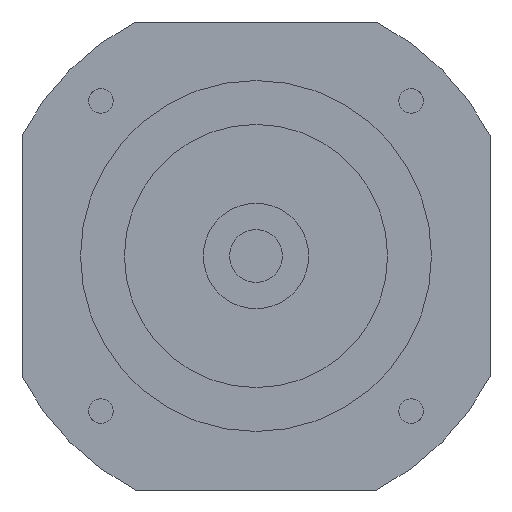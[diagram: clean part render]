
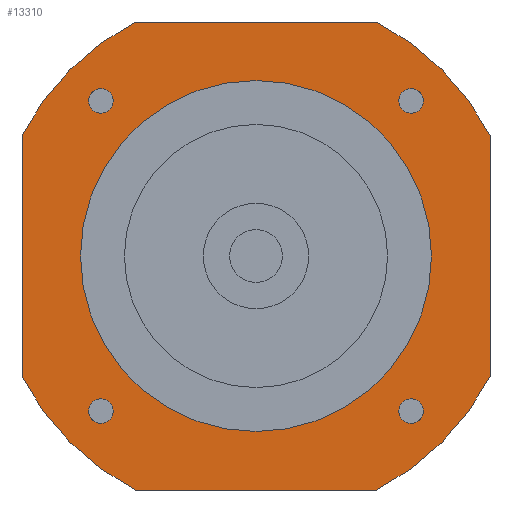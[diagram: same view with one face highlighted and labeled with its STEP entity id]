
A CAD part, left-side view. The second image highlights one B-rep face of the part: STEP entity #13310.
In plain terms, the highlighted planar face has unit normal (-1, 0, 0) as drawn and (0, 0, -1) by its records, which use the part's own axes.
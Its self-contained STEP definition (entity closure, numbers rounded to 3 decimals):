
#8680=CARTESIAN_POINT('',(-20.616,40.,-42.2));
#8690=VERTEX_POINT('',#8680);
#8870=CARTESIAN_POINT('',(-40.,20.616,-42.2));
#8880=VERTEX_POINT('',#8870);
#8910=CARTESIAN_POINT('',(0.,0.,
-42.2));
#8920=DIRECTION('',(0.,0.,1.));
#8930=DIRECTION('',(-1.,0.,0.));
#8940=AXIS2_PLACEMENT_3D('',#8910,#8920,#8930);
#8950=CIRCLE('',#8940,45.);
#8960=EDGE_CURVE('',#8690,#8880,#8950,.T.);
#9100=CARTESIAN_POINT('',(-40.,-20.616,-42.2));
#9110=VERTEX_POINT('',#9100);
#9290=CARTESIAN_POINT('',(-20.616,-40.,-42.2));
#9300=VERTEX_POINT('',#9290);
#9330=CARTESIAN_POINT('',(0.,0.,
-42.2));
#9340=DIRECTION('',(0.,0.,1.));
#9350=DIRECTION('',(-1.,0.,0.));
#9360=AXIS2_PLACEMENT_3D('',#9330,#9340,#9350);
#9370=CIRCLE('',#9360,45.);
#9380=EDGE_CURVE('',#9110,#9300,#9370,.T.);
#11850=CARTESIAN_POINT('',(40.,40.,-42.2));
#11860=DIRECTION('',(0.,0.,1.));
#11870=DIRECTION('',(-1.,0.,0.));
#11880=AXIS2_PLACEMENT_3D('',#11850,#11860,#11870);
#11890=PLANE('',#11880);
#11900=CARTESIAN_POINT('',(-26.517,26.517,-42.2));
#11910=DIRECTION('',(0.,0.,-1.));
#11920=DIRECTION('',(0.,-1.,0.));
#11930=AXIS2_PLACEMENT_3D('',#11900,#11910,#11920);
#11940=CIRCLE('',#11930,2.1);
#11950=CARTESIAN_POINT('',(-26.517,24.417,-42.2));
#11960=VERTEX_POINT('',#11950);
#11970=CARTESIAN_POINT('',(-28.617,26.517,-42.2));
#11980=VERTEX_POINT('',#11970);
#11990=EDGE_CURVE('',#11960,#11980,#11940,.T.);
#12000=ORIENTED_EDGE('',*,*,#11990,.F.);
#12010=CARTESIAN_POINT('',(-24.417,26.517,-42.2));
#12020=VERTEX_POINT('',#12010);
#12030=EDGE_CURVE('',#11980,#12020,#11940,.T.);
#12040=ORIENTED_EDGE('',*,*,#12030,.F.);
#12050=EDGE_CURVE('',#12020,#11960,#11940,.T.);
#12060=ORIENTED_EDGE('',*,*,#12050,.F.);
#12070=EDGE_LOOP('',(#12060,#12040,#12000));
#12080=FACE_BOUND('',#12070,.T.);
#12090=CARTESIAN_POINT('',(26.517,26.517,-42.2));
#12100=DIRECTION('',(0.,0.,-1.));
#12110=DIRECTION('',(0.,-1.,0.));
#12120=AXIS2_PLACEMENT_3D('',#12090,#12100,#12110);
#12130=CIRCLE('',#12120,2.1);
#12140=CARTESIAN_POINT('',(26.517,24.417,-42.2));
#12150=VERTEX_POINT('',#12140);
#12160=CARTESIAN_POINT('',(24.417,26.517,-42.2));
#12170=VERTEX_POINT('',#12160);
#12180=EDGE_CURVE('',#12150,#12170,#12130,.T.);
#12190=ORIENTED_EDGE('',*,*,#12180,.F.);
#12200=CARTESIAN_POINT('',(28.617,26.517,-42.2));
#12210=VERTEX_POINT('',#12200);
#12220=EDGE_CURVE('',#12170,#12210,#12130,.T.);
#12230=ORIENTED_EDGE('',*,*,#12220,.F.);
#12240=EDGE_CURVE('',#12210,#12150,#12130,.T.);
#12250=ORIENTED_EDGE('',*,*,#12240,.F.);
#12260=EDGE_LOOP('',(#12250,#12230,#12190));
#12270=FACE_BOUND('',#12260,.T.);
#12280=CARTESIAN_POINT('',(26.517,-26.517,-42.2));
#12290=DIRECTION('',(0.,0.,-1.));
#12300=DIRECTION('',(0.,-1.,0.));
#12310=AXIS2_PLACEMENT_3D('',#12280,#12290,#12300);
#12320=CIRCLE('',#12310,2.1);
#12330=CARTESIAN_POINT('',(26.517,-28.617,-42.2));
#12340=VERTEX_POINT('',#12330);
#12350=CARTESIAN_POINT('',(24.417,-26.517,-42.2));
#12360=VERTEX_POINT('',#12350);
#12370=EDGE_CURVE('',#12340,#12360,#12320,.T.);
#12380=ORIENTED_EDGE('',*,*,#12370,.F.);
#12390=CARTESIAN_POINT('',(28.617,-26.517,-42.2));
#12400=VERTEX_POINT('',#12390);
#12410=EDGE_CURVE('',#12360,#12400,#12320,.T.);
#12420=ORIENTED_EDGE('',*,*,#12410,.F.);
#12430=EDGE_CURVE('',#12400,#12340,#12320,.T.);
#12440=ORIENTED_EDGE('',*,*,#12430,.F.);
#12450=EDGE_LOOP('',(#12440,#12420,#12380));
#12460=FACE_BOUND('',#12450,.T.);
#12470=CARTESIAN_POINT('',(0.,0.,
-42.2));
#12480=DIRECTION('',(0.,0.,1.));
#12490=DIRECTION('',(1.,0.,0.));
#12500=AXIS2_PLACEMENT_3D('',#12470,#12480,#12490);
#12510=CIRCLE('',#12500,30.);
#12520=CARTESIAN_POINT('',(30.,0.,-42.2));
#12530=VERTEX_POINT('',#12520);
#12540=CARTESIAN_POINT('',(-30.,0.,-42.2));
#12550=VERTEX_POINT('',#12540);
#12560=EDGE_CURVE('',#12530,#12550,#12510,.T.);
#12570=ORIENTED_EDGE('',*,*,#12560,.T.);
#12580=EDGE_CURVE('',#12550,#12530,#12510,.T.);
#12590=ORIENTED_EDGE('',*,*,#12580,.T.);
#12600=EDGE_LOOP('',(#12590,#12570));
#12610=FACE_BOUND('',#12600,.T.);
#12620=CARTESIAN_POINT('',(-26.517,-26.517,-42.2));
#12630=DIRECTION('',(0.,0.,-1.));
#12640=DIRECTION('',(0.,-1.,0.));
#12650=AXIS2_PLACEMENT_3D('',#12620,#12630,#12640);
#12660=CIRCLE('',#12650,2.1);
#12670=CARTESIAN_POINT('',(-26.517,-28.617,-42.2));
#12680=VERTEX_POINT('',#12670);
#12690=CARTESIAN_POINT('',(-28.617,-26.517,-42.2));
#12700=VERTEX_POINT('',#12690);
#12710=EDGE_CURVE('',#12680,#12700,#12660,.T.);
#12720=ORIENTED_EDGE('',*,*,#12710,.F.);
#12730=CARTESIAN_POINT('',(-24.417,-26.517,-42.2));
#12740=VERTEX_POINT('',#12730);
#12750=EDGE_CURVE('',#12700,#12740,#12660,.T.);
#12760=ORIENTED_EDGE('',*,*,#12750,.F.);
#12770=EDGE_CURVE('',#12740,#12680,#12660,.T.);
#12780=ORIENTED_EDGE('',*,*,#12770,.F.);
#12790=EDGE_LOOP('',(#12780,#12760,#12720));
#12800=FACE_BOUND('',#12790,.T.);
#12810=ORIENTED_EDGE('',*,*,#9380,.F.);
#12820=CARTESIAN_POINT('',(-40.,-40.,-42.2));
#12830=DIRECTION('',(1.,0.,0.));
#12840=VECTOR('',#12830,1000.);
#12850=LINE('',#12820,#12840);
#12860=CARTESIAN_POINT('',(20.616,-40.,-42.2));
#12870=VERTEX_POINT('',#12860);
#12880=EDGE_CURVE('',#9300,#12870,#12850,.T.);
#12890=ORIENTED_EDGE('',*,*,#12880,.F.);
#12900=CARTESIAN_POINT('',(0.,0.,
-42.2));
#12910=DIRECTION('',(0.,0.,1.));
#12920=DIRECTION('',(-1.,0.,0.));
#12930=AXIS2_PLACEMENT_3D('',#12900,#12910,#12920);
#12940=CIRCLE('',#12930,45.);
#12950=CARTESIAN_POINT('',(40.,-20.616,-42.2));
#12960=VERTEX_POINT('',#12950);
#12970=EDGE_CURVE('',#12870,#12960,#12940,.T.);
#12980=ORIENTED_EDGE('',*,*,#12970,.F.);
#12990=CARTESIAN_POINT('',(40.,-40.,-42.2));
#13000=DIRECTION('',(0.,1.,0.));
#13010=VECTOR('',#13000,1000.);
#13020=LINE('',#12990,#13010);
#13030=CARTESIAN_POINT('',(40.,20.616,-42.2));
#13040=VERTEX_POINT('',#13030);
#13050=EDGE_CURVE('',#12960,#13040,#13020,.T.);
#13060=ORIENTED_EDGE('',*,*,#13050,.F.);
#13070=CARTESIAN_POINT('',(0.,0.,
-42.2));
#13080=DIRECTION('',(0.,0.,1.));
#13090=DIRECTION('',(-1.,0.,0.));
#13100=AXIS2_PLACEMENT_3D('',#13070,#13080,#13090);
#13110=CIRCLE('',#13100,45.);
#13120=CARTESIAN_POINT('',(20.616,40.,-42.2));
#13130=VERTEX_POINT('',#13120);
#13140=EDGE_CURVE('',#13040,#13130,#13110,.T.);
#13150=ORIENTED_EDGE('',*,*,#13140,.F.);
#13160=CARTESIAN_POINT('',(40.,40.,-42.2));
#13170=DIRECTION('',(-1.,0.,0.));
#13180=VECTOR('',#13170,1000.);
#13190=LINE('',#13160,#13180);
#13200=EDGE_CURVE('',#13130,#8690,#13190,.T.);
#13210=ORIENTED_EDGE('',*,*,#13200,.F.);
#13220=ORIENTED_EDGE('',*,*,#8960,.F.);
#13230=CARTESIAN_POINT('',(-40.,40.,-42.2));
#13240=DIRECTION('',(0.,-1.,0.));
#13250=VECTOR('',#13240,1000.);
#13260=LINE('',#13230,#13250);
#13270=EDGE_CURVE('',#8880,#9110,#13260,.T.);
#13280=ORIENTED_EDGE('',*,*,#13270,.F.);
#13290=EDGE_LOOP('',(#13280,#13220,#13210,#13150,#13060,#12980,#12890,
#12810));
#13300=FACE_OUTER_BOUND('',#13290,.T.);
#13310=ADVANCED_FACE('',(#12080,#12270,#12460,#12610,#12800,#13300),
#11890,.F.);
